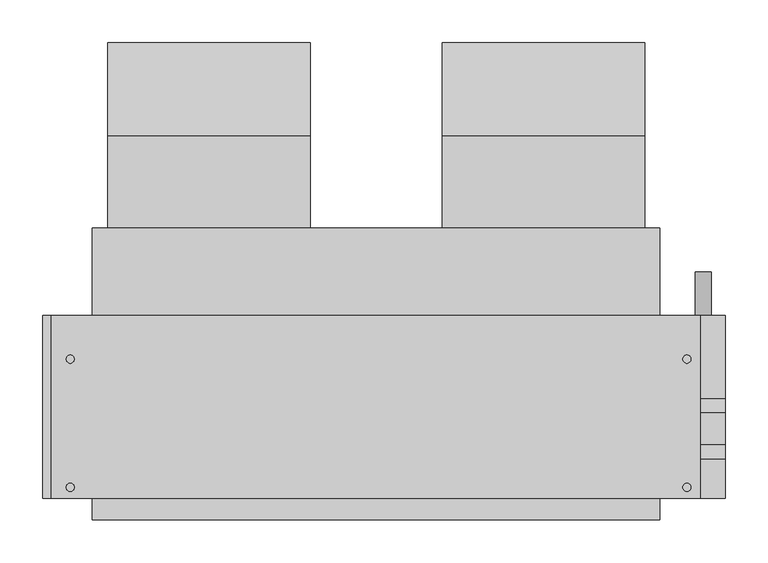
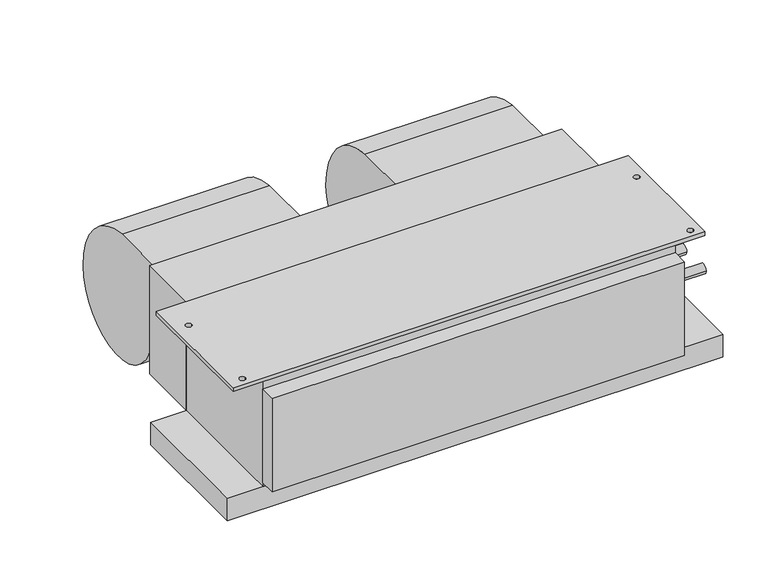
"""IFC4 building model written with IfcOpenShell, lengths in millimetres: proxy geometry, Concealed_Horizontal_Fan_Coil_Unit_-_42CAA_-_CARRIER_-_2-Pipe_Cool-EHeat_RH_2022 : Size 04 - 277v/60Hz/1Ph - 4 Row 3.0kW."""

from ifc_helpers import new_model, si_unit, point, frame, frame_2d, origin, place, context, project, spatial, polyline, circle_curve, trimmed, segment, composite_curve, outline, extrude, source, transform, mapped, element, save


def mechanical_equipment_bc7a5f60(model_context):
    return source(origin(), model_context, "Body", "SweptSolid", [
        extrude(outline(composite_curve([segment(trimmed(circle_curve(frame_2d((68.401169, -136.0299844)), 117.3559541), [point((77.7875, -19.05))], [point((185.7375, -138.176))], False, "CARTESIAN"), True, "CONTINUOUS"), segment(trimmed(circle_curve(frame_2d((90.0022663, -136.4250563)), 95.7512443), [point((185.7375, -138.176))], [point((77.7875, -231.394))], False, "CARTESIAN"), True, "CONTINUOUS"), segment(trimmed(circle_curve(frame_2d((89.9711869, -136.6666968)), 95.5076133), [point((77.7875, -231.394))], [point((-5.5245, -138.176))], False, "CARTESIAN"), True, "CONTINUOUS"), segment(trimmed(circle_curve(frame_2d((-24.6059828, -138.4775816)), 19.0838659), [point((-5.5245, -138.176))], [point((-17.7963373, -120.65))], True, "CARTESIAN"), True, "CONTINUOUS"), segment(polyline([(-17.7963373, -120.65), (-30.1625, -120.65), (-30.1625, -19.05), (77.7875, -19.05)]), True, "CONTINUOUS")], self_intersect=False)), frame((229.4255, 0.0, 0.0), z_axis=(1.0, 0.0, 0.0), x_axis=(0.0, 1.0, 0.0)), (0.0, 0.0, 1.0), 235.712),
        extrude(outline(composite_curve([segment(trimmed(circle_curve(frame_2d((68.401169, -136.0299844)), 117.3559541), [point((77.7875, -19.05))], [point((185.7375, -138.176))], False, "CARTESIAN"), True, "CONTINUOUS"), segment(trimmed(circle_curve(frame_2d((90.0022663, -136.4250563)), 95.7512443), [point((185.7375, -138.176))], [point((77.7875, -231.394))], False, "CARTESIAN"), True, "CONTINUOUS"), segment(trimmed(circle_curve(frame_2d((89.9711869, -136.6666968)), 95.5076133), [point((77.7875, -231.394))], [point((-5.5245, -138.176))], False, "CARTESIAN"), True, "CONTINUOUS"), segment(trimmed(circle_curve(frame_2d((-24.6059828, -138.4775816)), 19.0838659), [point((-5.5245, -138.176))], [point((-17.7963373, -120.65))], True, "CARTESIAN"), True, "CONTINUOUS"), segment(polyline([(-17.7963373, -120.65), (-30.1625, -120.65), (-30.1625, -19.05), (77.7875, -19.05)]), True, "CONTINUOUS")], self_intersect=False)), frame((-159.512, 0.0, 0.0), z_axis=(1.0, 0.0, 0.0), x_axis=(0.0, 1.0, 0.0)), (0.0, 0.0, 1.0), 235.712),
        extrude(outline(polyline([(530.225, -131.7625), (530.225, -344.4875), (-225.425, -344.4875), (-225.425, -131.7625), (530.225, -131.7625)]), holes=[composite_curve([segment(trimmed(circle_curve(frame_2d((-203.2, -182.5625)), 4.7625), [point((-207.9625, -182.5625))], [point((-198.4375, -182.5625))], True, "CARTESIAN"), True, "CONTINUOUS"), segment(trimmed(circle_curve(frame_2d((-203.2, -182.5625)), 4.7625), [point((-198.4375, -182.5625))], [point((-207.9625, -182.5625))], True, "CARTESIAN"), True, "CONTINUOUS")], self_intersect=False), composite_curve([segment(trimmed(circle_curve(frame_2d((-203.2, -331.7875)), 4.7625), [point((-207.9625, -331.7875))], [point((-198.4375, -331.7875))], True, "CARTESIAN"), True, "CONTINUOUS"), segment(trimmed(circle_curve(frame_2d((-203.2, -331.7875)), 4.7625), [point((-198.4375, -331.7875))], [point((-207.9625, -331.7875))], True, "CARTESIAN"), True, "CONTINUOUS")], self_intersect=False), composite_curve([segment(trimmed(circle_curve(frame_2d((514.35, -182.5625)), 4.7625), [point((509.5875, -182.5625))], [point((519.1125, -182.5625))], True, "CARTESIAN"), True, "CONTINUOUS"), segment(trimmed(circle_curve(frame_2d((514.35, -182.5625)), 4.7625), [point((519.1125, -182.5625))], [point((509.5875, -182.5625))], True, "CARTESIAN"), True, "CONTINUOUS")], self_intersect=False), composite_curve([segment(trimmed(circle_curve(frame_2d((514.35, -331.7875)), 4.7625), [point((509.5875, -331.7875))], [point((519.1125, -331.7875))], True, "CARTESIAN"), True, "CONTINUOUS"), segment(trimmed(circle_curve(frame_2d((514.35, -331.7875)), 4.7625), [point((519.1125, -331.7875))], [point((509.5875, -331.7875))], True, "CARTESIAN"), True, "CONTINUOUS")], self_intersect=False)]), frame((0.0, 0.0, -6.35), z_axis=(0.0, 0.0, 1.0), x_axis=(1.0, 0.0, 0.0)), (0.0, 0.0, 1.0), 6.35),
        extrude(outline(polyline([(-177.8, -30.1625), (482.6, -30.1625), (482.6, -131.7625), (-177.8, -131.7625), (-177.8, -30.1625)])), frame((0.0, 0.0, -184.15), z_axis=(0.0, 0.0, 1.0), x_axis=(1.0, 0.0, 0.0)), (0.0, 0.0, 1.0), 184.15),
        extrude(outline(composite_curve([segment(trimmed(circle_curve(frame_2d((-209.55, 533.4)), 9.525), [point((-209.55, 523.875))], [point((-209.55, 542.925))], False, "CARTESIAN"), True, "CONTINUOUS"), segment(trimmed(circle_curve(frame_2d((-209.55, 533.4)), 9.525), [point((-209.55, 542.925))], [point((-209.55, 523.875))], False, "CARTESIAN"), True, "CONTINUOUS")], self_intersect=False)), frame((0.0, -131.7625, 0.0), z_axis=(0.0, 1.0, 0.0), x_axis=(0.0, 0.0, 1.0)), (0.0, 0.0, 1.0), 50.8),
        extrude(outline(polyline([(482.6, -369.8875), (-177.8, -369.8875), (-177.8, -344.4875), (482.6, -344.4875), (482.6, -369.8875)])), frame((0.0, 0.0, -177.8), z_axis=(0.0, 0.0, 1.0), x_axis=(1.0, 0.0, 0.0)), (0.0, 0.0, 1.0), 158.75),
        extrude(outline(polyline([(558.8, -131.7625), (558.8, -344.4875), (-234.95, -344.4875), (-234.95, -131.7625), (558.8, -131.7625)])), frame((0.0, 0.0, -222.25), z_axis=(0.0, 0.0, 1.0), x_axis=(1.0, 0.0, 0.0)), (0.0, 0.0, 1.0), 38.1),
        extrude(outline(composite_curve([segment(trimmed(circle_curve(frame_2d((-290.5125, -104.775)), 7.9375), [point((-298.45, -104.775))], [point((-282.575, -104.775))], False, "CARTESIAN"), True, "CONTINUOUS"), segment(trimmed(circle_curve(frame_2d((-290.5125, -104.775)), 7.9375), [point((-282.575, -104.775))], [point((-298.45, -104.775))], False, "CARTESIAN"), True, "CONTINUOUS")], self_intersect=False)), frame((482.6, 0.0, 0.0), z_axis=(1.0, 0.0, 0.0), x_axis=(0.0, 1.0, 0.0)), (0.0, 0.0, 1.0), 76.2),
        extrude(outline(composite_curve([segment(trimmed(circle_curve(frame_2d((-236.5375, -104.775)), 7.9375), [point((-244.475, -104.775))], [point((-228.6, -104.775))], False, "CARTESIAN"), True, "CONTINUOUS"), segment(trimmed(circle_curve(frame_2d((-236.5375, -104.775)), 7.9375), [point((-228.6, -104.775))], [point((-244.475, -104.775))], False, "CARTESIAN"), True, "CONTINUOUS")], self_intersect=False)), frame((482.6, 0.0, 0.0), z_axis=(1.0, 0.0, 0.0), x_axis=(0.0, 1.0, 0.0)), (0.0, 0.0, 1.0), 76.2),
        extrude(outline(polyline([(482.6, -344.4875), (-177.8, -344.4875), (-177.8, -131.7625), (482.6, -131.7625), (482.6, -344.4875)])), frame((0.0, 0.0, -184.15), z_axis=(0.0, 0.0, 1.0), x_axis=(1.0, 0.0, 0.0)), (0.0, 0.0, 1.0), 177.8),
    ])


if __name__ == "__main__":
    model = new_model("IFC4")
    model_context = context("Model", 3, world=origin())
    ifc_project = project(units=[si_unit("LENGTHUNIT", "METRE", prefix="MILLI")], contexts=[model_context])
    site = spatial("IfcSite", under=ifc_project)
    building = spatial("IfcBuilding", under=site)
    placement = place(None, origin())
    mechanical_equipment_shape = mechanical_equipment_bc7a5f60(model_context)
    element("IfcBuildingElementProxy", 1, Name="Concealed_Horizontal_Fan_Coil_Unit_-_42CAA_-_CARRIER_-_2-Pipe_Cool-EHeat_RH_2022 : Size 04 - 277v/60Hz/1Ph - 4 Row 3.0kW", ObjectType="Concealed_Horizontal_Fan_Coil_Unit_-_42CAA_-_CARRIER_-_2-Pipe_Cool-EHeat_RH_2022 : Size 04 - 277v/60Hz/1Ph - 4 Row 3.0kW", at=placement, inside=building, context=model_context, shape_type="MappedRepresentation", body=[
        mapped(mechanical_equipment_shape, transform((0.0, 0.0, 0.0), x_axis=(1.0, 0.0, 0.0), y_axis=(0.0, 1.0, 0.0), z_axis=(0.0, 0.0, 1.0))),
    ])
    save(model, "model.ifc")
